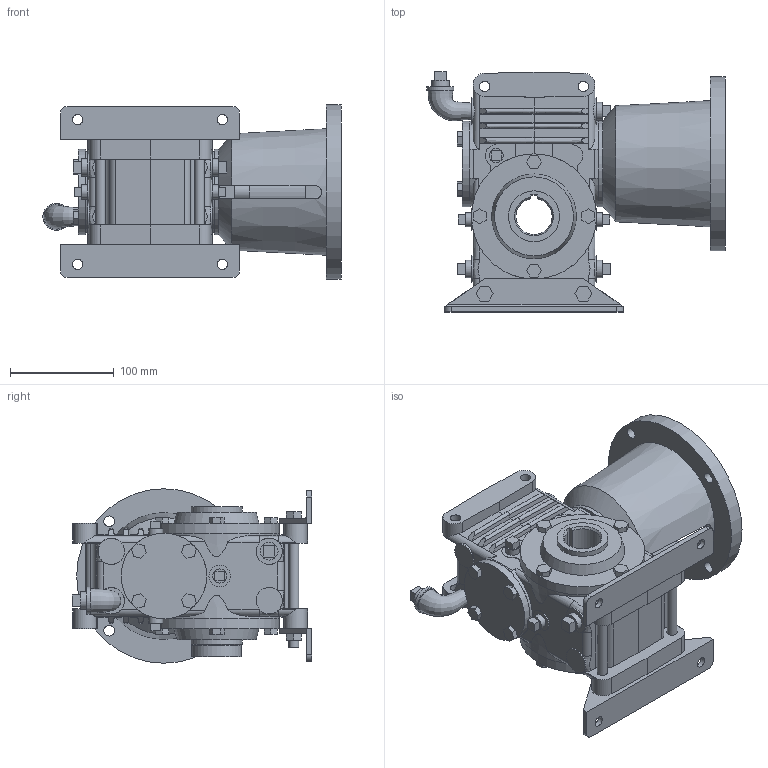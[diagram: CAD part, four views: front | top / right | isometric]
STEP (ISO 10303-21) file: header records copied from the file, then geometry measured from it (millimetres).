
FILE_DESCRIPTION(/* description */ ('Unknown'),/* implementation_level */ '2;1');
FILE_NAME(/* name */ 'HO-20-1-EBNG010',/* time_stamp */ '2024-11-20T11:45:32-05:00',/* author */ ('Unknown'),/* organization */ ('Unknown'),/* preprocessor_version */ 'ST-DEVELOPER v19.4',/* originating_system */ 'Solid Edge',/* authorisation */ 'Unknown');
FILE_SCHEMA (('AUTOMOTIVE_DESIGN {1 0 10303 214 3 1 1}'));
Length unit declared in the file: millimetre
Products named in the file (6): HO-20-1-EBNG010; 20-WO-CP; 20-OUTHS-1375; 20-OUTH-1375; 20-MTR45-56C; 20-WCAP
Assembly tree (5 placements, depth 2):
  HO-20-1-EBNG010
    20-WO-CP
    20-OUTHS-1375
    20-OUTH-1375
    20-MTR45-56C
    20-WCAP
Bounding box: 287.86 x 231.52 x 168.28 mm (x, y, z)
Volume: 3080410.4 mm3; surface area: 437739.8 mm2
Topology: 7 solids, 7 shells, 567 faces, 1404 edges, 928 vertices
Faces by surface type: plane 390, cylinder 141, bspline 25, cone 11
Full cylindrical faces by diameter (mm): 0.254 x5, 0.635 x1, 1.27 x1, 7.938 x8, 9.525 x4, 9.922 x4, 10.033 x8, 10.319 x4, 11.906 x4, 13.564 x4, 17.043 x4, 17.45 x1, 17.475 x1, 18.952 x1, 20.828 x2, 25.4 x8, 26.162 x1, 44.45 x1, 47.625 x1, 49.2 x4, 50.47 x2, 50.8 x1, 52.07 x1, 52.324 x1, 82.55 x2, 114.338 x1, 120.65 x2, 168.275 x1
Entity records: 18753 total; most frequent: CARTESIAN_POINT 4277, DIRECTION 2608, ORIENTED_EDGE 2536, EDGE_CURVE 1268, VERTEX_POINT 879, AXIS2_PLACEMENT_3D 877, LINE 854, VECTOR 854
